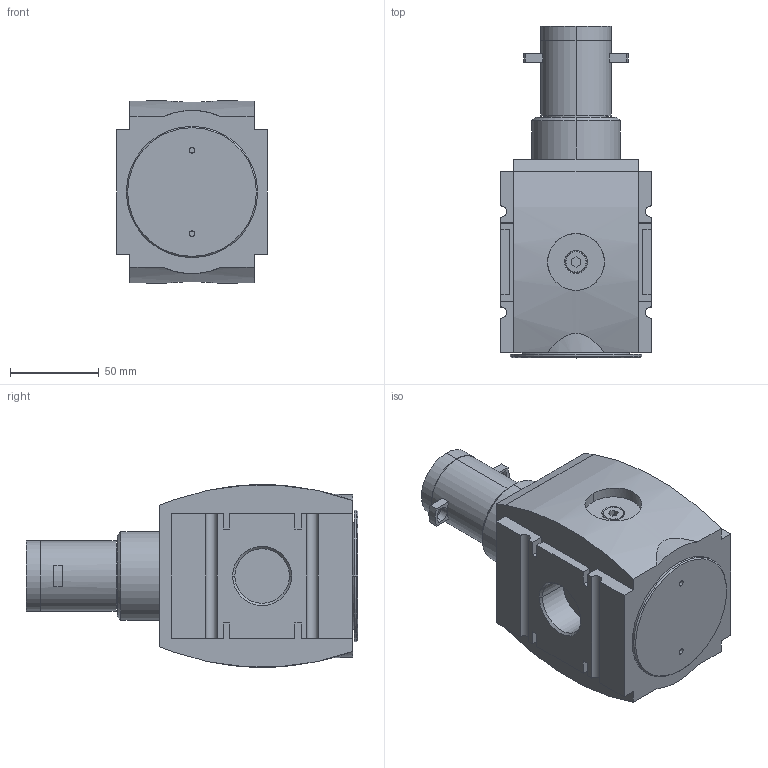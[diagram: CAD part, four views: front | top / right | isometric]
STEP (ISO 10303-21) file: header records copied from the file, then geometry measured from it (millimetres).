
FILE_DESCRIPTION((''),'2;1');
FILE_NAME('R412009116_ASM','2015-05-12T',('pma1hc'),(''),'PRO/ENGINEER BY PARAMETRIC TECHNOLOGY CORPORATION, 2011490','PRO/ENGINEER BY PARAMETRIC TECHNOLOGY CORPORATION, 2011490','');
FILE_SCHEMA(('AUTOMOTIVE_DESIGN_CC2 { 1 2 10303 214 -1 1 5 2 }'));
Length unit declared in the file: millimetre
Products named in the file (3): R412009116; AS5_PLUG_14; R412009116_ASM
Assembly tree (3 placements, depth 2):
  R412009116_ASM
    R412009116
    AS5_PLUG_14  x2
Bounding box: 85 x 187.1 x 103 mm (x, y, z)
Volume: 916200.1 mm3; surface area: 79028 mm2
Topology: 3 solids, 3 shells, 168 faces, 412 edges, 268 vertices
Faces by surface type: plane 98, cylinder 44, cone 22, torus 4
Entity records: 7006 total; most frequent: CARTESIAN_POINT 1151, DIRECTION 806, ORIENTED_EDGE 760, PRESENTATION_STYLE_ASSIGNMENT 455, STYLED_ITEM 382, CURVE_STYLE 380, EDGE_CURVE 380, AXIS2_PLACEMENT_3D 273
